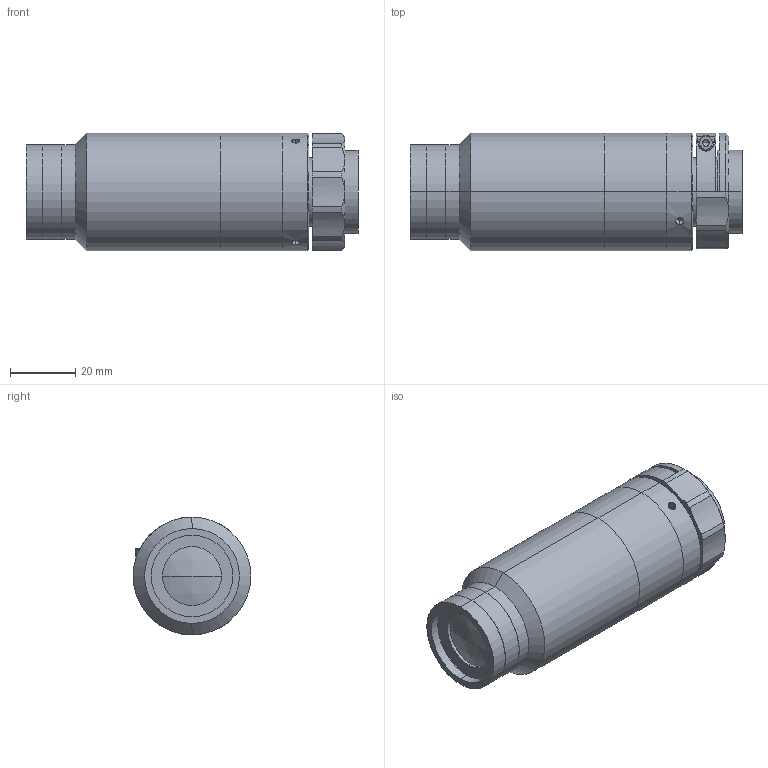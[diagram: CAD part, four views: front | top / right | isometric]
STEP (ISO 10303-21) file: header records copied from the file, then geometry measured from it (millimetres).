
FILE_DESCRIPTION (( 'STEP AP203' ), '1' );
FILE_NAME ('XF-MH02X425.STEP', '2020-08-24T07:11:30', ( 'canrill-02' ), ( '' ), 'SwSTEP 2.0', 'SolidWorks 2014', '' );
FILE_SCHEMA (( 'CONFIG_CONTROL_DESIGN' ));
Length unit declared in the file: millimetre
Products named in the file (1): XF-MH02X425
Bounding box: 101.5 x 36 x 36 mm (x, y, z)
Surface area: 16642.2 mm2 (no closed solid volume)
Topology: 0 solids, 11 shells, 96 faces, 258 edges, 172 vertices
Faces by surface type: cylinder 47, plane 30, cone 15, sphere 2, torus 2
Entity records: 3373 total; most frequent: CARTESIAN_POINT 846, DIRECTION 561, ORIENTED_EDGE 435, EDGE_CURVE 256, AXIS2_PLACEMENT_3D 231, VERTEX_POINT 172, CIRCLE 134, EDGE_LOOP 117
